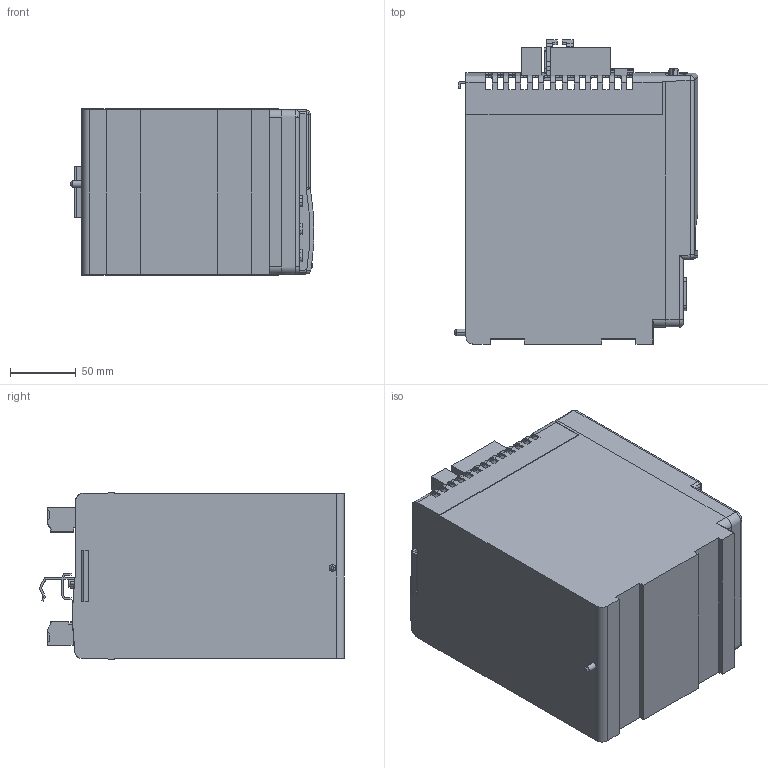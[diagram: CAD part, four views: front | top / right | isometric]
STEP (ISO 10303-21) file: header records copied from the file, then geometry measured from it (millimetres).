
FILE_DESCRIPTION (( 'STEP AP214' ), '1' );
FILE_NAME ('Rockwell Automation-2094-XX-2094-AC09-M02-S.STEP', '2012-03-01T15:15:08', ( 'sysAdmin' ), ( 'SolidWorks' ), 'SwSTEP 2.0', 'SolidWorks 2012', '' );
FILE_SCHEMA (( 'AUTOMOTIVE_DESIGN' ));
Length unit declared in the file: millimetre
Products named in the file (1): Rockwell Automation-2094-XX-2094-AC09-M02-S
Bounding box: 184.96 x 230.99 x 126.04 mm (x, y, z)
Volume: 316468.3 mm3; surface area: 342539.9 mm2
Topology: 2 solids, 2 shells, 1905 faces, 5183 edges, 3433 vertices
Faces by surface type: plane 1116, cylinder 483, bspline 262, torus 29, cone 13, sphere 2
Entity records: 81137 total; most frequent: CARTESIAN_POINT 28185, ORIENTED_EDGE 10366, DIRECTION 8658, EDGE_CURVE 5183, VERTEX_POINT 3433, LINE 3340, VECTOR 3340, AXIS2_PLACEMENT_3D 2659
